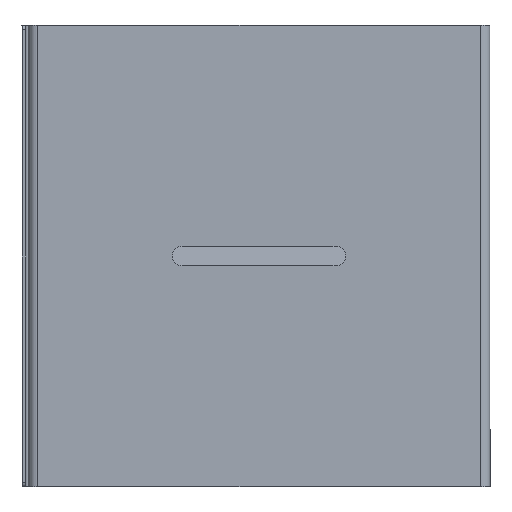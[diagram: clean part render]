
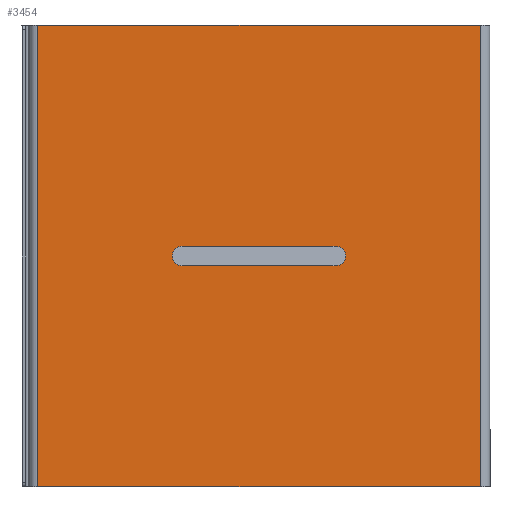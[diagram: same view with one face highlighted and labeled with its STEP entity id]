
A CAD part, front view. The second image highlights one B-rep face of the part: STEP entity #3454.
In plain terms, the highlighted planar face has unit normal (0, -1, 0).
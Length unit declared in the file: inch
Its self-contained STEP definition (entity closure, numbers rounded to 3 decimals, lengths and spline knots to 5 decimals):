
#227 = VERTEX_POINT ( 'NONE', #1278 ) ;
#276 = VERTEX_POINT ( 'NONE', #1363 ) ;
#289 = EDGE_CURVE ( 'NONE', #227, #290, #1405, .T. ) ;
#290 = VERTEX_POINT ( 'NONE', #1401 ) ;
#811 = VERTEX_POINT ( 'NONE', #2285 ) ;
#813 = EDGE_CURVE ( 'NONE', #811, #814, #2284, .T. ) ;
#814 = VERTEX_POINT ( 'NONE', #2279 ) ;
#1278 = CARTESIAN_POINT ( 'NONE',  ( 2.8742, 0., 3. ) ) ;
#1363 = CARTESIAN_POINT ( 'NONE',  ( 2.8742, 0., -3. ) ) ;
#1401 = CARTESIAN_POINT ( 'NONE',  ( -2.8742, 0., 3. ) ) ;
#1402 = DIRECTION ( 'NONE',  ( -1., 0., 0. ) ) ;
#1403 = VECTOR ( 'NONE', #1402, 39.37008 ) ;
#1404 = CARTESIAN_POINT ( 'NONE',  ( -3., 0., 3. ) ) ;
#1405 = LINE ( 'NONE', #1404, #1403 ) ;
#2178 = DIRECTION ( 'NONE',  ( 1., 0., 0. ) ) ;
#2279 = CARTESIAN_POINT ( 'NONE',  ( 1., 0., 0.125 ) ) ;
#2280 = DIRECTION ( 'NONE',  ( 1., 0., 0. ) ) ;
#2281 = DIRECTION ( 'NONE',  ( 0., -1., 0. ) ) ;
#2282 = CARTESIAN_POINT ( 'NONE',  ( 1., 0., 0. ) ) ;
#2283 = AXIS2_PLACEMENT_3D ( 'NONE', #2282, #2281, #2280 ) ;
#2284 = CIRCLE ( 'NONE', #2283, 0.125 ) ;
#2285 = CARTESIAN_POINT ( 'NONE',  ( 1.125, 0., 0. ) ) ;
#2428 = DIRECTION ( 'NONE',  ( 0., -1., 0. ) ) ;
#2429 = CARTESIAN_POINT ( 'NONE',  ( 1., 0., 0. ) ) ;
#2430 = AXIS2_PLACEMENT_3D ( 'NONE', #2429, #2428, #2178 ) ;
#2431 = CIRCLE ( 'NONE', #2430, 0.125 ) ;
#2588 = CARTESIAN_POINT ( 'NONE',  ( -2.8742, 0., 3. ) ) ;
#2589 = LINE ( 'NONE', #2588, #2652 ) ;
#2591 = DIRECTION ( 'NONE',  ( 1., 0., 0. ) ) ;
#2592 = VECTOR ( 'NONE', #2591, 39.37008 ) ;
#2593 = CARTESIAN_POINT ( 'NONE',  ( 1., 0., -0.125 ) ) ;
#2594 = LINE ( 'NONE', #2593, #2592 ) ;
#2595 = CARTESIAN_POINT ( 'NONE',  ( 1., 0., -0.125 ) ) ;
#2596 = DIRECTION ( 'NONE',  ( 1., 0., 0. ) ) ;
#2597 = DIRECTION ( 'NONE',  ( 0., -1., 0. ) ) ;
#2598 = CARTESIAN_POINT ( 'NONE',  ( -1., 0., 0. ) ) ;
#2599 = AXIS2_PLACEMENT_3D ( 'NONE', #2598, #2597, #2596 ) ;
#2600 = CIRCLE ( 'NONE', #2599, 0.125 ) ;
#2601 = DIRECTION ( 'NONE',  ( -1., 0., 0. ) ) ;
#2602 = VECTOR ( 'NONE', #2601, 39.37008 ) ;
#2603 = CARTESIAN_POINT ( 'NONE',  ( -1., 0., 0.125 ) ) ;
#2604 = LINE ( 'NONE', #2603, #2602 ) ;
#2605 = CARTESIAN_POINT ( 'NONE',  ( -1., 0., 0.125 ) ) ;
#2606 = CARTESIAN_POINT ( 'NONE',  ( -1., 0., -0.125 ) ) ;
#2640 = DIRECTION ( 'NONE',  ( 1., 0., 0. ) ) ;
#2641 = DIRECTION ( 'NONE',  ( 0., -1., 0. ) ) ;
#2642 = CARTESIAN_POINT ( 'NONE',  ( -3., 0., 3. ) ) ;
#2643 = AXIS2_PLACEMENT_3D ( 'NONE', #2642, #2641, #2640 ) ;
#2644 = PLANE ( 'NONE',  #2643 ) ;
#2645 = FACE_OUTER_BOUND ( 'NONE', #3445, .T. ) ;
#2646 = FACE_BOUND ( 'NONE', #3439, .T. ) ;
#2647 = DIRECTION ( 'NONE',  ( 0., 0., -1. ) ) ;
#2648 = VECTOR ( 'NONE', #2647, 39.37008 ) ;
#2649 = CARTESIAN_POINT ( 'NONE',  ( 2.8742, 0., 3. ) ) ;
#2650 = LINE ( 'NONE', #2649, #2648 ) ;
#2651 = DIRECTION ( 'NONE',  ( 0., 0., -1. ) ) ;
#2652 = VECTOR ( 'NONE', #2651, 39.37008 ) ;
#3035 = CARTESIAN_POINT ( 'NONE',  ( -2.8742, 0., -3. ) ) ;
#3139 = DIRECTION ( 'NONE',  ( -1., 0., 0. ) ) ;
#3140 = VECTOR ( 'NONE', #3139, 39.37008 ) ;
#3141 = CARTESIAN_POINT ( 'NONE',  ( -3., 0., -3. ) ) ;
#3142 = LINE ( 'NONE', #3141, #3140 ) ;
#3327 = ORIENTED_EDGE ( 'NONE', *, *, #3328, .F. ) ;
#3328 = EDGE_CURVE ( 'NONE', #3441, #811, #2431, .T. ) ;
#3433 = VERTEX_POINT ( 'NONE', #2606 ) ;
#3434 = ORIENTED_EDGE ( 'NONE', *, *, #3437, .F. ) ;
#3435 = VERTEX_POINT ( 'NONE', #2605 ) ;
#3436 = ORIENTED_EDGE ( 'NONE', *, *, #813, .F. ) ;
#3437 = EDGE_CURVE ( 'NONE', #814, #3435, #2604, .T. ) ;
#3438 = EDGE_CURVE ( 'NONE', #3435, #3433, #2600, .T. ) ;
#3439 = EDGE_LOOP ( 'NONE', ( #3451, #3434, #3436, #3327, #3443 ) ) ;
#3441 = VERTEX_POINT ( 'NONE', #2595 ) ;
#3443 = ORIENTED_EDGE ( 'NONE', *, *, #3444, .F. ) ;
#3444 = EDGE_CURVE ( 'NONE', #3433, #3441, #2594, .T. ) ;
#3445 = EDGE_LOOP ( 'NONE', ( #3446, #3455, #3456, #3457 ) ) ;
#3446 = ORIENTED_EDGE ( 'NONE', *, *, #3753, .F. ) ;
#3450 = EDGE_CURVE ( 'NONE', #290, #3704, #2589, .T. ) ;
#3451 = ORIENTED_EDGE ( 'NONE', *, *, #3438, .F. ) ;
#3452 = EDGE_CURVE ( 'NONE', #227, #276, #2650, .T. ) ;
#3454 = ADVANCED_FACE ( 'NONE', ( #2646, #2645 ), #2644, .T. ) ;
#3455 = ORIENTED_EDGE ( 'NONE', *, *, #3452, .F. ) ;
#3456 = ORIENTED_EDGE ( 'NONE', *, *, #289, .T. ) ;
#3457 = ORIENTED_EDGE ( 'NONE', *, *, #3450, .T. ) ;
#3704 = VERTEX_POINT ( 'NONE', #3035 ) ;
#3753 = EDGE_CURVE ( 'NONE', #276, #3704, #3142, .T. ) ;
